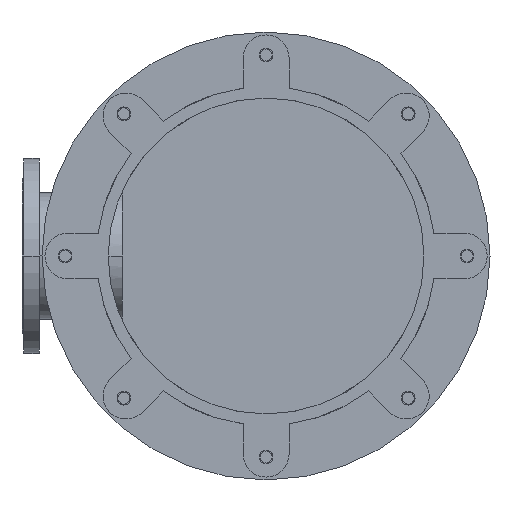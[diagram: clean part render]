
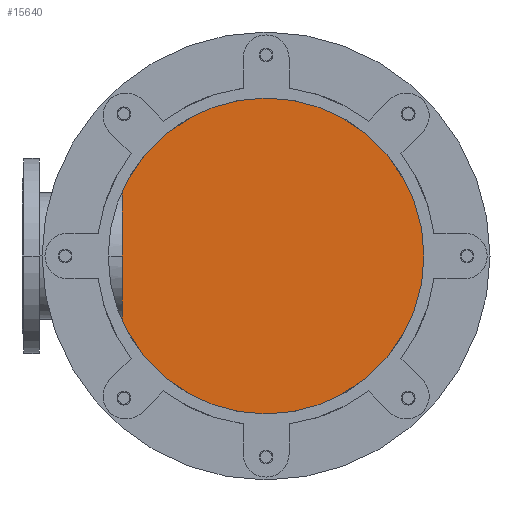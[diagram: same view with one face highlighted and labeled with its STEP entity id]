
A CAD part, front view. The second image highlights one B-rep face of the part: STEP entity #15640.
In plain terms, the highlighted planar face has unit normal (0, -1, 0).
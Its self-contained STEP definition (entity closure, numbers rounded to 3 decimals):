
#3944=CARTESIAN_POINT('',(0.,875.,0.));
#3945=DIRECTION('',(0.,-1.,0.));
#3946=DIRECTION('',(0.,0.,-1.));
#3947=AXIS2_PLACEMENT_3D('',#3944,#3945,#3946);
#4029=CARTESIAN_POINT('',(0.,875.,0.));
#4030=DIRECTION('',(0.,-1.,0.));
#4031=DIRECTION('',(0.,0.,1.));
#4032=AXIS2_PLACEMENT_3D('',#4029,#4030,#4031);
#9065=CARTESIAN_POINT('',(0.,875.,290.));
#9066=CARTESIAN_POINT('',(0.,875.,-290.));
#9067=VERTEX_POINT('',#9065);
#9068=VERTEX_POINT('',#9066);
#15631=CARTESIAN_POINT('',(0.,875.,0.));
#15632=DIRECTION('',(0.,1.,0.));
#15633=DIRECTION('',(0.,0.,-1.));
#15634=AXIS2_PLACEMENT_3D('',#15631,#15632,#15633);
#15635=PLANE('',#15634);
#15636=ORIENTED_EDGE('',*,*,#15611,.F.);
#15637=ORIENTED_EDGE('',*,*,#15516,.F.);
#15638=EDGE_LOOP('',(#15636,#15637));
#15639=FACE_OUTER_BOUND('',#15638,.F.);
#15640=ADVANCED_FACE('',(#15639),#15635,.F.);
#3948=CIRCLE('',#3947,290.);
#4033=CIRCLE('',#4032,290.);
#15516=EDGE_CURVE('',#9068,#9067,#3948,.T.);
#15611=EDGE_CURVE('',#9067,#9068,#4033,.T.);
